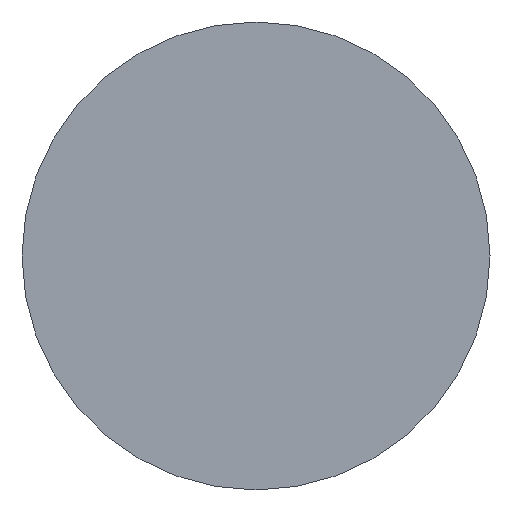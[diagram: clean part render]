
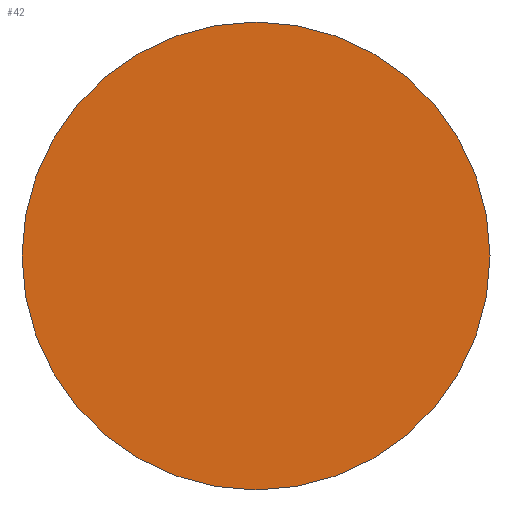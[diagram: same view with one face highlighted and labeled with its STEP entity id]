
A CAD part, top view. The second image highlights one B-rep face of the part: STEP entity #42.
In plain terms, the highlighted planar face has unit normal (0, 0, 1).
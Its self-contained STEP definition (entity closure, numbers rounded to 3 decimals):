
#42=ADVANCED_FACE('',(#90),#91,.T.);
#90=FACE_OUTER_BOUND('',#149,.T.);
#91=PLANE('',#150);
#149=EDGE_LOOP('',(#250));
#150=AXIS2_PLACEMENT_3D('',#251,#252,#253);
#250=ORIENTED_EDGE('',*,*,#325,.F.);
#251=CARTESIAN_POINT('',(-6.75,0.0,0.));
#252=DIRECTION('',(0.0,0.,1.0));
#253=DIRECTION('',(1.0,0.0,0.0));
#325=EDGE_CURVE('',#357,#357,#358,.T.);
#357=VERTEX_POINT('',#401);
#358=CIRCLE('',#402,13.5);
#401=CARTESIAN_POINT('',(0.0,-13.5,0.));
#402=AXIS2_PLACEMENT_3D('',#444,#445,#446);
#444=CARTESIAN_POINT('',(0.0,0.0,0.0));
#445=DIRECTION('',(0.0,0.,-1.0));
#446=DIRECTION('',(0.0,-1.0,0.));
